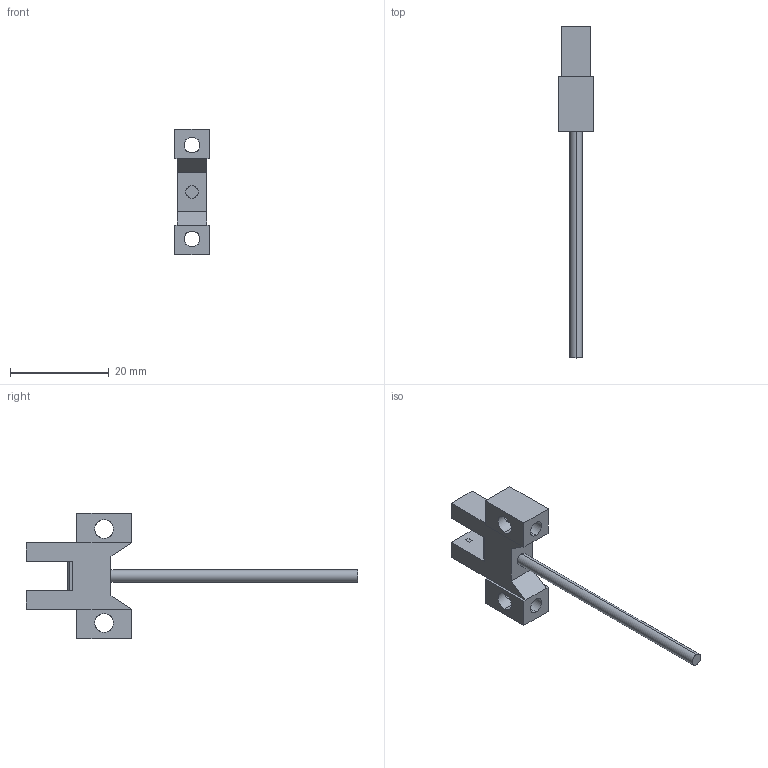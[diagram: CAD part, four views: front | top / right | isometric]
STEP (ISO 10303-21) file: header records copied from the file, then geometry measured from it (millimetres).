
FILE_DESCRIPTION (( 'STEP AP203' ), '1' );
FILE_NAME ('pm-k45.STEP', '2015-03-16T10:31:02', ( '' ), ( '' ), 'SwSTEP 2.0', 'SolidWorks 2010', '' );
FILE_SCHEMA (( 'CONFIG_CONTROL_DESIGN' ));
Length unit declared in the file: millimetre
Products named in the file (1): pm-k45
Bounding box: 7 x 67.2 x 25.4 mm (x, y, z)
Volume: 2028.9 mm3; surface area: 2010.4 mm2
Topology: 1 solids, 1 shells, 73 faces, 190 edges, 124 vertices
Faces by surface type: plane 59, cylinder 14
Entity records: 2509 total; most frequent: CARTESIAN_POINT 612, ORIENTED_EDGE 380, DIRECTION 350, EDGE_CURVE 190, LINE 162, VECTOR 162, VERTEX_POINT 124, AXIS2_PLACEMENT_3D 94
